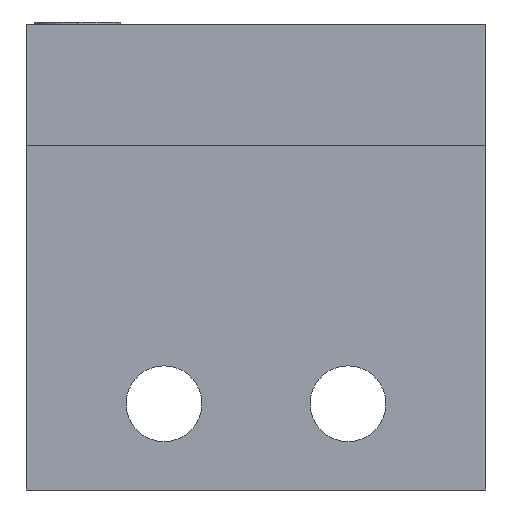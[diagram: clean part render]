
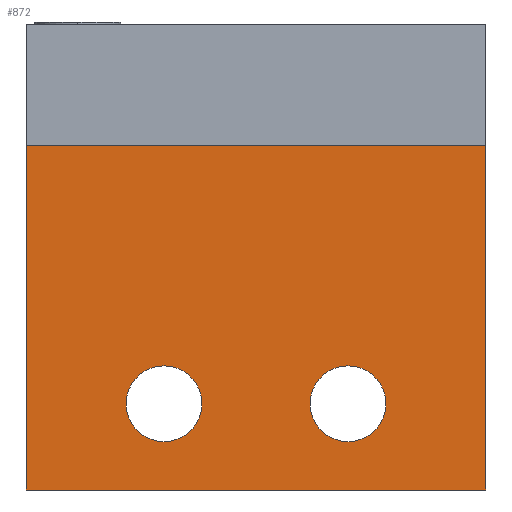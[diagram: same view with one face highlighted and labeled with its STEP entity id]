
A CAD part, front view. The second image highlights one B-rep face of the part: STEP entity #872.
In plain terms, the highlighted planar face has unit normal (0, -1, 0).
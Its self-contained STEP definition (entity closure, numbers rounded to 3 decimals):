
#223=DIRECTION('',(1.,0.,0.));
#224=VECTOR('',#223,40.);
#225=CARTESIAN_POINT('',(-20.,0.,0.));
#226=LINE('',#225,#224);
#227=DIRECTION('',(0.,0.,-1.));
#228=VECTOR('',#227,30.);
#229=CARTESIAN_POINT('',(20.,0.,0.));
#230=LINE('',#229,#228);
#231=DIRECTION('',(-1.,0.,0.));
#232=VECTOR('',#231,40.);
#233=CARTESIAN_POINT('',(20.,0.,-30.));
#234=LINE('',#233,#232);
#235=DIRECTION('',(0.,0.,1.));
#236=VECTOR('',#235,30.);
#237=CARTESIAN_POINT('',(-20.,0.,-30.));
#238=LINE('',#237,#236);
#239=CARTESIAN_POINT('',(-8.,0.,-22.5));
#240=DIRECTION('',(0.,1.,0.));
#241=DIRECTION('',(1.,0.,0.));
#242=AXIS2_PLACEMENT_3D('',#239,#240,#241);
#244=CARTESIAN_POINT('',(-8.,0.,-22.5));
#245=DIRECTION('',(0.,1.,0.));
#246=DIRECTION('',(-1.,0.,0.));
#247=AXIS2_PLACEMENT_3D('',#244,#245,#246);
#249=CARTESIAN_POINT('',(8.,0.,-22.5));
#250=DIRECTION('',(0.,1.,0.));
#251=DIRECTION('',(1.,0.,0.));
#252=AXIS2_PLACEMENT_3D('',#249,#250,#251);
#254=CARTESIAN_POINT('',(8.,0.,-22.5));
#255=DIRECTION('',(0.,1.,0.));
#256=DIRECTION('',(-1.,0.,0.));
#257=AXIS2_PLACEMENT_3D('',#254,#255,#256);
#707=CARTESIAN_POINT('',(-20.,0.,0.));
#708=CARTESIAN_POINT('',(20.,0.,0.));
#709=VERTEX_POINT('',#707);
#710=VERTEX_POINT('',#708);
#711=CARTESIAN_POINT('',(20.,0.,-30.));
#712=VERTEX_POINT('',#711);
#713=CARTESIAN_POINT('',(-20.,0.,-30.));
#714=VERTEX_POINT('',#713);
#739=CARTESIAN_POINT('',(-4.7,0.,-22.5));
#740=CARTESIAN_POINT('',(-11.3,0.,-22.5));
#741=VERTEX_POINT('',#739);
#742=VERTEX_POINT('',#740);
#747=CARTESIAN_POINT('',(11.3,0.,-22.5));
#748=CARTESIAN_POINT('',(4.7,0.,-22.5));
#749=VERTEX_POINT('',#747);
#750=VERTEX_POINT('',#748);
#845=CARTESIAN_POINT('',(0.,0.,-15.));
#846=DIRECTION('',(0.,1.,0.));
#847=DIRECTION('',(1.,0.,0.));
#848=AXIS2_PLACEMENT_3D('',#845,#846,#847);
#849=PLANE('',#848);
#851=ORIENTED_EDGE('',*,*,#850,.T.);
#853=ORIENTED_EDGE('',*,*,#852,.T.);
#855=ORIENTED_EDGE('',*,*,#854,.T.);
#857=ORIENTED_EDGE('',*,*,#856,.T.);
#858=EDGE_LOOP('',(#851,#853,#855,#857));
#859=FACE_OUTER_BOUND('',#858,.F.);
#861=ORIENTED_EDGE('',*,*,#860,.F.);
#863=ORIENTED_EDGE('',*,*,#862,.F.);
#864=EDGE_LOOP('',(#861,#863));
#865=FACE_BOUND('',#864,.F.);
#867=ORIENTED_EDGE('',*,*,#866,.F.);
#869=ORIENTED_EDGE('',*,*,#868,.F.);
#870=EDGE_LOOP('',(#867,#869));
#871=FACE_BOUND('',#870,.F.);
#243=CIRCLE('',#242,3.3);
#248=CIRCLE('',#247,3.3);
#253=CIRCLE('',#252,3.3);
#258=CIRCLE('',#257,3.3);
#850=EDGE_CURVE('',#709,#710,#226,.T.);
#852=EDGE_CURVE('',#710,#712,#230,.T.);
#854=EDGE_CURVE('',#712,#714,#234,.T.);
#856=EDGE_CURVE('',#714,#709,#238,.T.);
#860=EDGE_CURVE('',#741,#742,#243,.T.);
#862=EDGE_CURVE('',#742,#741,#248,.T.);
#866=EDGE_CURVE('',#749,#750,#253,.T.);
#868=EDGE_CURVE('',#750,#749,#258,.T.);
#872=ADVANCED_FACE('',(#859,#865,#871),#849,.F.);
